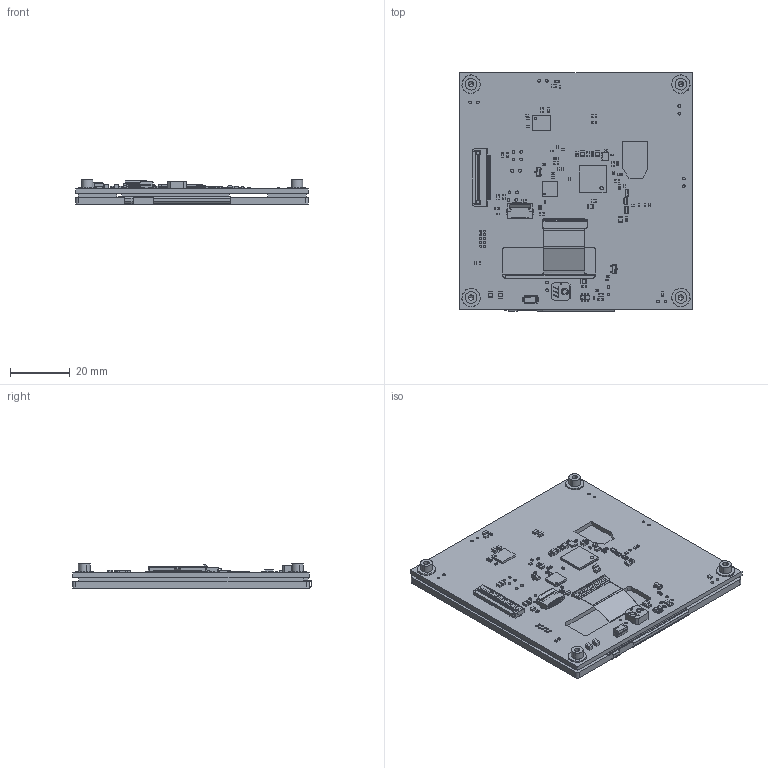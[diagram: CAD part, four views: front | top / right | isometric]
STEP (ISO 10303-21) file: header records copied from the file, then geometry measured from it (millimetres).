
FILE_DESCRIPTION (( 'STEP AP214' ), '1' );
FILE_NAME ('CFA480480E0-040TN.STEP', '2024-12-11T23:31:50', ( '' ), ( '' ), 'SwSTEP 2.0', 'SolidWorks 2021', '' );
FILE_SCHEMA (( 'AUTOMOTIVE_DESIGN' ));
Length unit declared in the file: millimetre
Products named in the file (50): FA-20H_12.0000MD30Z-K3_CMP-002-00080-3; FP-CL165-IPC_B_CMP-001-00090-2; ERJ2R_Family_CAM_CMP-009-00185-2; ERJ2R_Family_CAM_CMP-009-00179-1; 00133_CAM_00133_SCH-15; 00133_CAM_CMP-004-000007-3; ERJ2R_Family_CAM_CMP-009-00184-2; ERJ2R_Family_CAM_CMP-005-000028-2; clear_1mm_tape; 01655_CAM_CMP-004-000010-1; CL05_Footprint_CMP-007-000018-1; RESC0402(1005)_L_CMP-009-00203-6; 03064_CAM_03064_SCH-1; ERJ2R_Family_CAM_CMP-005-000027-2; 17034_CMP-009-00206-2; FP-DO-214AC-MFG_CMP-004-00040-1; 00289_CAM_00289_SCH-1; CS050Z10G-A0; ERJ2R_Family_CAM_CMP-009-00183-1; FP-SOT26_SC74R-MFG_CMP-001-0018-1; 15032_CAM_CMP-004-000012-1; 03064_CAM_03063_SCH-1; 01655_CAM_01655_SCH-1; ERJ2R_Family_CAM_CMP-009-00187-1; 00289_CAM_CMP-004-000008-2; ERJ2R_Family_CAM_CMP-005-000029-3; 00133_CAM_CMP-004-000007-1; FP-CL313-IPC_B_CMP-001-00085-3; ERJ2R_Family_CAM_03068_SCH-1; CS030Z45G-A0 ; QFN50P500X500X85_HS-33N_CMP-007-000032-3; FP-C1608-080-0_1-MFG_CMP-004-000007-3; CFPN_01712; QFN50P900X900X80_HS-65N_CMP-007-000016-3; cfa-10118_4_inch_EVE; SON127P600X80_HS-9N_CMP-002-00081-2; 00289_CAM_CMP-004-000008-1; FP-CL696-IPC_B_CMP-001-00089-1; 00289_CAM_CMP-004-000001-1; 16110_CAM_00191_SCH-1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
Assembly tree (91 placements, depth 3):
  CFA480480E0-040TN
    cfa-10118_4_inch_EVE
      cfa-10118_4_inch_EVE_BOARD
      FP-C1608-080-0_1-MFG_CMP-004-000007-3  x5
      FP-C1608-080-0_1-MFG_CMP-004-000007-4  x3
      00133_CAM_00133_SCH-15  x4
      RESC0402(1005)_L_CMP-009-00203-6  x3
      ERJ2R_Family_CAM_CMP-009-00179-1  x7
      SON127P600X80_HS-9N_CMP-002-00081-2
      FA-20H_12.0000MD30Z-K3_CMP-002-00080-3
      INDP6060X25N_CMP-007-000033-1
      ERJ2R_Family_CAM_CMP-005-000027-2  x5
      QFN50P900X900X80_HS-65N_CMP-007-000016-3
      01655_CAM_CMP-004-000010-1  x4
      00289_CAM_CMP-004-000008-1  x2
      00133_CAM_CMP-004-000007-3  x2
      ERJ2R_Family_CAM_CMP-009-00188-1
      FP-SOT23-IPC_B_CMP-007-000034-2  x2
      FP-CL313-IPC_B_CMP-001-00085-3
      CL05_Footprint_CMP-007-000018-1
      FP-SOT26_SC74R-MFG_CMP-001-0018-1
      QFN50P500X500X85_HS-33N_CMP-007-000032-3
      ERJ2R_Family_CAM_CMP-009-00183-1
      ERJ2R_Family_CAM_03071_SCH-1
      16110_CAM_00191_SCH-1
      ERJ2R_Family_CAM_03068_SCH-1
      03064_CAM_03064_SCH-1
      03064_CAM_03063_SCH-1  x2
      ERJ2R_Family_CAM_CMP-005-000028-2  x2
      17034_CMP-009-00206-2
      ERJ2R_Family_CAM_CMP-009-00187-1
      ERJ2R_Family_CAM_CMP-009-00186-2
      ERJ2R_Family_CAM_CMP-009-00185-2
      ERJ2R_Family_CAM_CMP-009-00184-2
      ERJ2R_Family_CAM_CMP-005-000029-3
      CS050Y30T-B0_CAM_CMP-009-000039-3
      FP-DO-214AC-MFG_CMP-004-00040-1
      00289_CAM_00289_SCH-1  x8
      00289_CAM_CMP-004-000001-1
      00289_CAM_CMP-004-000008-2
      FP-CL696-IPC_B_CMP-001-00089-1  x2
      00133_CAM_CMP-004-000007-1
      FP-CL165-IPC_B_CMP-001-00090-2
      15032_CAM_CMP-004-000012-1  x2
      01655_CAM_01655_SCH-1
    clear_1mm_tape  x2
    CFAF480480A0-040TN
    CFPN_01712  x4
    CS030Z45G-A0 
    CS050Z10G-A0
Bounding box: 77.66 x 79.71 x 8.05 mm (x, y, z)
Volume: 24415.5 mm3; surface area: 34803.6 mm2
Topology: 537 solids, 652 shells, 14513 faces, 37748 edges, 24451 vertices
Faces by surface type: plane 9537, cylinder 3290, bspline 1372, sphere 298, torus 8, cone 8
Entity records: 418703 total; most frequent: CARTESIAN_POINT 98171, ORIENTED_EDGE 64936, DIRECTION 55617, EDGE_CURVE 32471, LINE 22427, VECTOR 22427, VERTEX_POINT 21068, AXIS2_PLACEMENT_3D 16595
